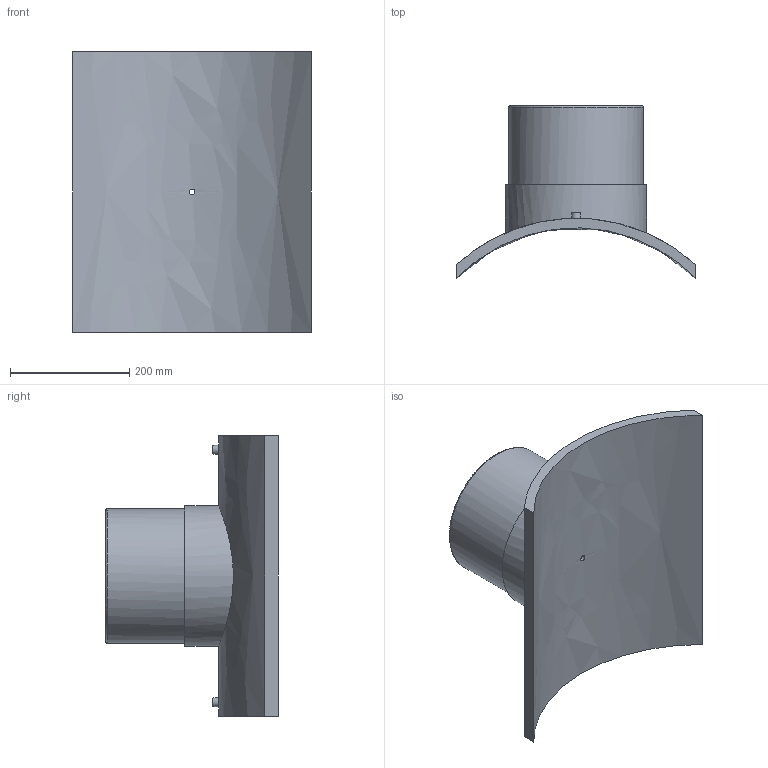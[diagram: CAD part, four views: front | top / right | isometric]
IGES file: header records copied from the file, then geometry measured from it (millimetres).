
Global section: file name: 495803560225T; native system: Autodesk Inventor 2019; preprocessor: unknown; author: KIM; date: 20240404.115250; units: millimetre
Bounding box: 400 x 289.04 x 470 mm (x, y, z)
Volume: 6449227 mm3; surface area: 714163.7 mm2
Topology: 1 solids, 1 shells, 29 faces, 60 edges, 43 vertices
Faces by surface type: bspline 29
